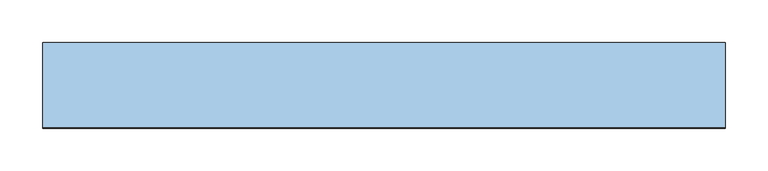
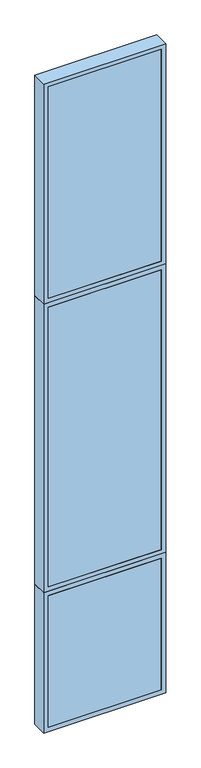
"""IFC4 building model written with IfcOpenShell, lengths in millimetres: window geometry, TRP_CP_ARC_FI_V1 : VE_VF2_80."""

from ifc_helpers import new_model, si_unit, frame, origin, place, context, project, spatial, polyline, outline, extrude, source, transform, mapped, element, save


def window_4195a185(model_context):
    return source(origin(), model_context, "Body", "SweptSolid", [
        extrude(outline(polyline([(370.0, -50.0), (-370.0, -50.0), (-370.0, -30.0), (370.0, -30.0), (370.0, -50.0)])), frame((0.0, 0.0, 30.0), z_axis=(0.0, 0.0, 1.0), x_axis=(1.0, 0.0, 0.0)), (0.0, 0.0, 1.0), 913.0),
        extrude(outline(polyline([(973.0, 400.0), (973.0, -400.0), (0.0, -400.0), (0.0, 400.0), (973.0, 400.0)]), holes=[polyline([(30.0, 370.0), (30.0, -370.0), (943.0, -370.0), (943.0, 370.0), (30.0, 370.0)])]), frame((0.0, -50.0, 0.0), z_axis=(0.0, 1.0, 0.0), x_axis=(0.0, 0.0, 1.0)), (0.0, 0.0, 1.0), 100.0),
        extrude(outline(polyline([(2973.0, 400.0), (2973.0, -400.0), (973.0, -400.0), (973.0, 400.0), (2973.0, 400.0)]), holes=[polyline([(1003.0, 370.0), (1003.0, -370.0), (2943.0, -370.0), (2943.0, 370.0), (1003.0, 370.0)])]), frame((0.0, -50.0, 0.0), z_axis=(0.0, 1.0, 0.0), x_axis=(0.0, 0.0, 1.0)), (0.0, 0.0, 1.0), 100.0),
        extrude(outline(polyline([(370.0, -50.0), (-370.0, -50.0), (-370.0, -30.0), (370.0, -30.0), (370.0, -50.0)])), frame((0.0, 0.0, 1003.0), z_axis=(0.0, 0.0, 1.0), x_axis=(1.0, 0.0, 0.0)), (0.0, 0.0, 1.0), 1940.0),
        extrude(outline(polyline([(4500.0, 400.0), (4500.0, -400.0), (2973.0, -400.0), (2973.0, 400.0), (4500.0, 400.0)]), holes=[polyline([(3003.0, 370.0), (3003.0, -370.0), (4470.0, -370.0), (4470.0, 370.0), (3003.0, 370.0)])]), frame((0.0, -50.0, 0.0), z_axis=(0.0, 1.0, 0.0), x_axis=(0.0, 0.0, 1.0)), (0.0, 0.0, 1.0), 100.0),
        extrude(outline(polyline([(370.0, -50.0), (-370.0, -50.0), (-370.0, -30.0), (370.0, -30.0), (370.0, -50.0)])), frame((0.0, 0.0, 3003.0), z_axis=(0.0, 0.0, 1.0), x_axis=(1.0, 0.0, 0.0)), (0.0, 0.0, 1.0), 1467.0),
    ])


if __name__ == "__main__":
    model = new_model("IFC4")
    model_context = context("Model", 3, world=origin())
    ifc_project = project(units=[si_unit("LENGTHUNIT", "METRE", prefix="MILLI")], contexts=[model_context])
    site = spatial("IfcSite", under=ifc_project)
    building = spatial("IfcBuilding", under=site)
    placement = place(None, origin())
    window_shape = window_4195a185(model_context)
    element("IfcWindow", 1, ObjectType="TRP_CP_ARC_FI_V1 : VE_VF2_80", at=placement, inside=building, context=model_context, shape_type="MappedRepresentation", body=[
        mapped(window_shape, transform((0.0, 0.0, 0.0), x_axis=(1.0, 0.0, 0.0), y_axis=(0.0, 1.0, 0.0), z_axis=(0.0, 0.0, 1.0))),
    ])
    save(model, "model.ifc")
